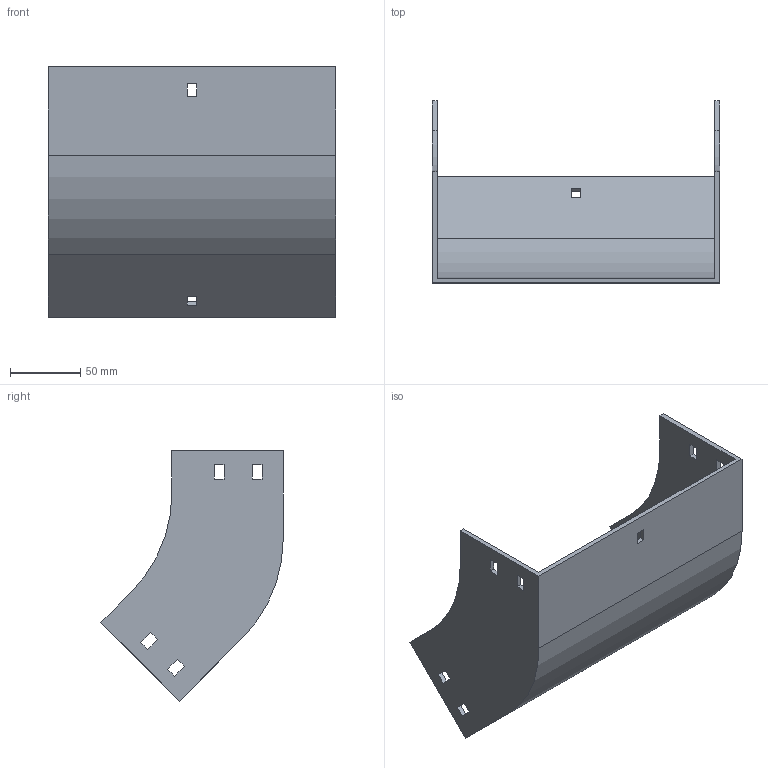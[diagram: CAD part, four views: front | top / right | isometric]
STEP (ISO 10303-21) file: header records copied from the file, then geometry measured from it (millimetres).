
FILE_DESCRIPTION (( 'STEP AP214' ), '1' );
FILE_NAME ('31F1C200.step', '2025-02-21T13:00:41', ( '' ), ( '' ), 'SwSTEP 2.0', 'SolidWorks 2023', '' );
FILE_SCHEMA (( 'AUTOMOTIVE_DESIGN' ));
Length unit declared in the file: millimetre
Products named in the file (1): 31F1C200
Bounding box: 204 x 129.5 x 177.79 mm (x, y, z)
Volume: 234418.6 mm3; surface area: 138586.9 mm2
Topology: 1 solids, 1 shells, 58 faces, 168 edges, 112 vertices
Faces by surface type: plane 54, cylinder 4
Entity records: 1943 total; most frequent: CARTESIAN_POINT 339, ORIENTED_EDGE 336, DIRECTION 294, EDGE_CURVE 168, VECTOR 160, LINE 160, VERTEX_POINT 112, EDGE_LOOP 78
